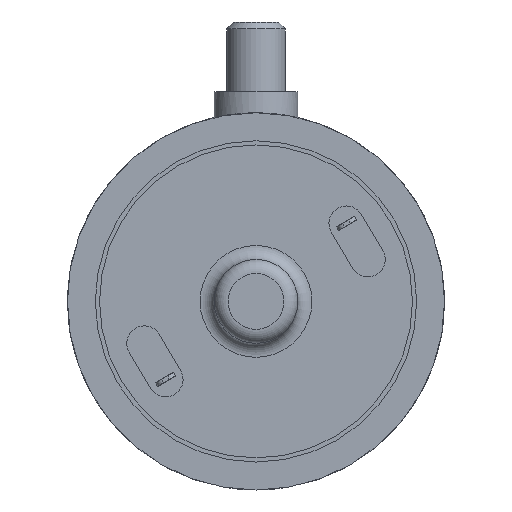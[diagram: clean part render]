
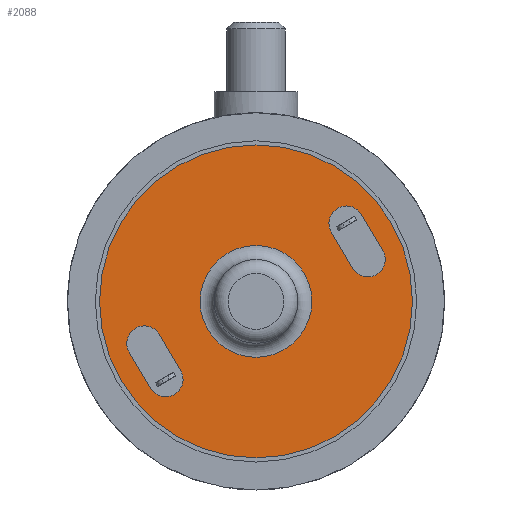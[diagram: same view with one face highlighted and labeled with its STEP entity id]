
A CAD part, left-side view. The second image highlights one B-rep face of the part: STEP entity #2088.
In plain terms, the highlighted planar face has unit normal (-1, 0, 0).
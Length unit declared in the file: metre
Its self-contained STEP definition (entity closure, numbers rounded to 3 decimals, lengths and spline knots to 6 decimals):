
#97=LINE('',#3500,#261);
#98=LINE('',#3504,#262);
#99=LINE('',#3510,#263);
#100=LINE('',#3514,#264);
#261=VECTOR('',#2935,1.);
#262=VECTOR('',#2938,1.);
#263=VECTOR('',#2943,1.);
#264=VECTOR('',#2946,1.);
#425=ORIENTED_EDGE('',*,*,#1003,.T.);
#426=ORIENTED_EDGE('',*,*,#1004,.F.);
#427=ORIENTED_EDGE('',*,*,#1005,.F.);
#428=ORIENTED_EDGE('',*,*,#1006,.F.);
#429=ORIENTED_EDGE('',*,*,#1007,.F.);
#430=ORIENTED_EDGE('',*,*,#1008,.F.);
#431=ORIENTED_EDGE('',*,*,#1009,.F.);
#432=ORIENTED_EDGE('',*,*,#1010,.F.);
#433=ORIENTED_EDGE('',*,*,#1011,.F.);
#434=ORIENTED_EDGE('',*,*,#1012,.F.);
#1003=EDGE_CURVE('',#1292,#1292,#1501,.T.);
#1004=EDGE_CURVE('',#1293,#1294,#1502,.T.);
#1005=EDGE_CURVE('',#1295,#1293,#97,.T.);
#1006=EDGE_CURVE('',#1296,#1295,#1503,.T.);
#1007=EDGE_CURVE('',#1294,#1296,#98,.T.);
#1008=EDGE_CURVE('',#1297,#1297,#1504,.T.);
#1009=EDGE_CURVE('',#1298,#1299,#1505,.T.);
#1010=EDGE_CURVE('',#1300,#1298,#99,.T.);
#1011=EDGE_CURVE('',#1301,#1300,#1506,.T.);
#1012=EDGE_CURVE('',#1299,#1301,#100,.T.);
#1292=VERTEX_POINT('',#3496);
#1293=VERTEX_POINT('',#3498);
#1294=VERTEX_POINT('',#3499);
#1295=VERTEX_POINT('',#3501);
#1296=VERTEX_POINT('',#3503);
#1297=VERTEX_POINT('',#3506);
#1298=VERTEX_POINT('',#3508);
#1299=VERTEX_POINT('',#3509);
#1300=VERTEX_POINT('',#3511);
#1301=VERTEX_POINT('',#3513);
#1501=CIRCLE('',#2728,0.004);
#1502=CIRCLE('',#2729,0.00125);
#1503=CIRCLE('',#2730,0.00125);
#1504=CIRCLE('',#2731,0.0112);
#1505=CIRCLE('',#2732,0.00125);
#1506=CIRCLE('',#2733,0.00125);
#1577=EDGE_LOOP('',(#425));
#1578=EDGE_LOOP('',(#426,#427,#428,#429));
#1579=EDGE_LOOP('',(#430));
#1580=EDGE_LOOP('',(#431,#432,#433,#434));
#1747=FACE_BOUND('',#1577,.T.);
#1748=FACE_BOUND('',#1578,.T.);
#1749=FACE_BOUND('',#1579,.T.);
#1750=FACE_BOUND('',#1580,.T.);
#1917=PLANE('',#2727);
#2088=ADVANCED_FACE('',(#1747,#1748,#1749,#1750),#1917,.F.);
#2727=AXIS2_PLACEMENT_3D('',#3494,#2929,#2930);
#2728=AXIS2_PLACEMENT_3D('',#3495,#2931,#2932);
#2729=AXIS2_PLACEMENT_3D('',#3497,#2933,#2934);
#2730=AXIS2_PLACEMENT_3D('',#3502,#2936,#2937);
#2731=AXIS2_PLACEMENT_3D('',#3505,#2939,#2940);
#2732=AXIS2_PLACEMENT_3D('',#3507,#2941,#2942);
#2733=AXIS2_PLACEMENT_3D('',#3512,#2944,#2945);
#2929=DIRECTION('',(1.,0.,0.));
#2930=DIRECTION('',(0.,0.,-1.));
#2931=DIRECTION('',(1.,0.,0.));
#2932=DIRECTION('',(0.,0.,-1.));
#2933=DIRECTION('',(-1.,0.,0.));
#2934=DIRECTION('',(0.,0.,1.));
#2935=DIRECTION('',(0.,0.51,0.86));
#2936=DIRECTION('',(-1.,0.,0.));
#2937=DIRECTION('',(0.,0.,1.));
#2938=DIRECTION('',(0.,-0.51,-0.86));
#2939=DIRECTION('',(1.,0.,0.));
#2940=DIRECTION('',(0.,0.,-1.));
#2941=DIRECTION('',(-1.,0.,0.));
#2942=DIRECTION('',(0.,0.,-1.));
#2943=DIRECTION('',(0.,-0.51,-0.86));
#2944=DIRECTION('',(-1.,0.,0.));
#2945=DIRECTION('',(0.,0.,-1.));
#2946=DIRECTION('',(0.,0.51,0.86));
#3494=CARTESIAN_POINT('',(-0.0298,0.,0.0071));
#3495=CARTESIAN_POINT('',(-0.0298,0.,0.));
#3496=CARTESIAN_POINT('',(-0.0298,0.,-0.004));
#3497=CARTESIAN_POINT('',(-0.0298,-0.00647,0.00558));
#3498=CARTESIAN_POINT('',(-0.0298,-0.007545,0.006218));
#3499=CARTESIAN_POINT('',(-0.0298,-0.005395,0.004943));
#3500=CARTESIAN_POINT('',(-0.0298,-0.00831,0.004928));
#3501=CARTESIAN_POINT('',(-0.0298,-0.009075,0.003638));
#3502=CARTESIAN_POINT('',(-0.0298,-0.008,0.003));
#3503=CARTESIAN_POINT('',(-0.0298,-0.006925,0.002362));
#3504=CARTESIAN_POINT('',(-0.0298,-0.006542,0.003008));
#3505=CARTESIAN_POINT('',(-0.0298,0.,0.));
#3506=CARTESIAN_POINT('',(-0.0298,0.,-0.0112));
#3507=CARTESIAN_POINT('',(-0.0298,0.00647,-0.00558));
#3508=CARTESIAN_POINT('',(-0.0298,0.007545,-0.006218));
#3509=CARTESIAN_POINT('',(-0.0298,0.005395,-0.004943));
#3510=CARTESIAN_POINT('',(-0.0298,0.00831,-0.004928));
#3511=CARTESIAN_POINT('',(-0.0298,0.009075,-0.003638));
#3512=CARTESIAN_POINT('',(-0.0298,0.008,-0.003));
#3513=CARTESIAN_POINT('',(-0.0298,0.006925,-0.002362));
#3514=CARTESIAN_POINT('',(-0.0298,0.006542,-0.003008));
